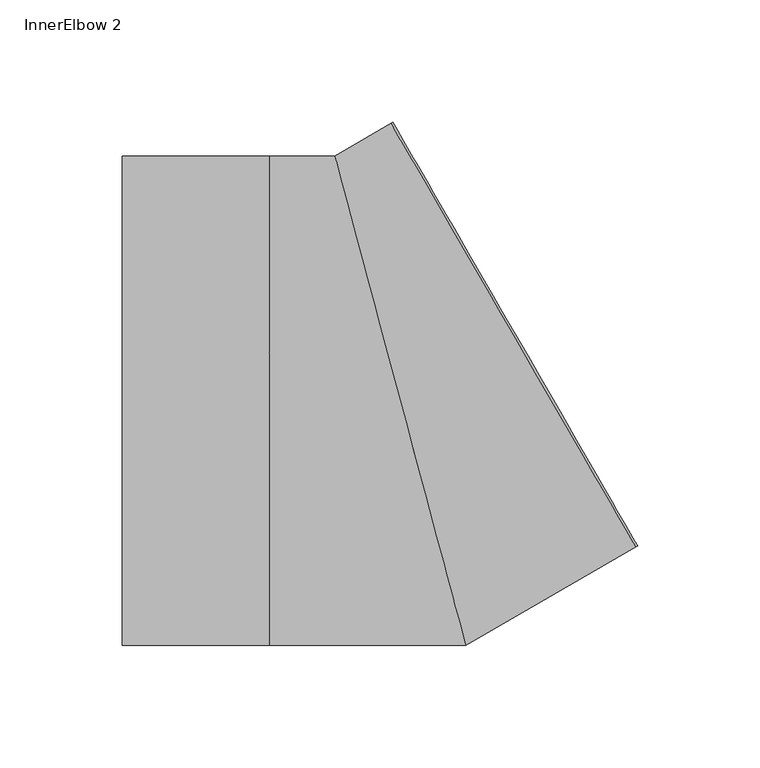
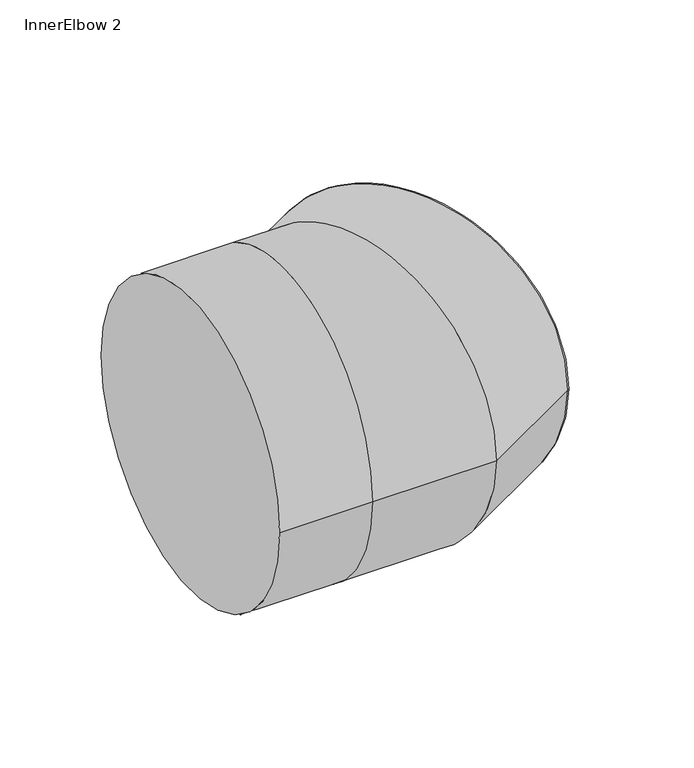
"""IFC4 building model written with IfcOpenShell, lengths in millimetres: pipe fitting geometry, CADS_Jeremias_InnerElbowSocket1 : InnerElbow 2."""

from ifc_helpers import new_model, si_unit, frame, origin, place, context, project, spatial, circle_curve, ellipse_curve, source, transform, mapped, element, save
from ifc_brep_helpers import plane_surface, cylinder_surface, advanced_brep


def innerelbow_2_19a0c524(model_context):
    return source(origin(), model_context, "Body", "AdvancedBrep", [
        advanced_brep(
        [(-113.4936491, -100.0, 0.0), (-113.4936491, 100.0, 0.0), (-53.4936491, -100.0, 0.0), (-53.4936491, 100.0, 0.0), (97.0196793, -59.4557159, 0.0), (-2.9803207, 113.7493649, 0.0), (-3.673141, 113.3493649, 0.0), (96.326859, -59.8557159, 0.0), (26.7949192, -100.0, 0.0), (-26.7949192, 100.0, 0.0)],
        [
            (0, 1, circle_curve(frame((-113.4936491, 0.0, 0.0), z_axis=(-1.0, 0.0, 0.0), x_axis=(0.0, 1.0, 0.0)), 100.0)),
            (1, 0, circle_curve(frame((-113.4936491, 0.0, 0.0), z_axis=(-1.0, 0.0, 0.0), x_axis=(0.0, 1.0, 0.0)), 100.0)),
            (0, 2),
            (2, 3, circle_curve(frame((-53.4936491, 0.0, 0.0), z_axis=(-1.0, 0.0, 0.0), x_axis=(0.0, 1.0, 0.0)), 100.0)),
            (3, 1),
            (3, 2, circle_curve(frame((-53.4936491, 0.0, 0.0), z_axis=(-1.0, 0.0, 0.0), x_axis=(0.0, 1.0, 0.0)), 100.0)),
            (4, 5, circle_curve(frame((47.0196793, 27.1468245, 0.0), z_axis=(0.8660254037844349, 0.5000000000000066, 0.0), x_axis=(-0.5000000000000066, 0.8660254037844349, 0.0)), 100.0)),
            (5, 4, circle_curve(frame((47.0196793, 27.1468245, 0.0), z_axis=(0.8660254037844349, 0.5000000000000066, 0.0), x_axis=(-0.5000000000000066, 0.8660254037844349, 0.0)), 100.0)),
            (5, 6),
            (6, 7, circle_curve(frame((46.326859, 26.7468245, 0.0), z_axis=(0.8660254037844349, 0.5000000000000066, 0.0), x_axis=(-0.5000000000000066, 0.8660254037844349, 0.0)), 100.0)),
            (7, 4),
            (7, 6, circle_curve(frame((46.326859, 26.7468245, 0.0), z_axis=(0.8660254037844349, 0.5000000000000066, 0.0), x_axis=(-0.5000000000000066, 0.8660254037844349, 0.0)), 100.0)),
            (2, 8),
            (8, 9, ellipse_curve(frame((0.0, 0.0, 0.0), z_axis=(-0.9659258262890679, -0.25881904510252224, 0.0), x_axis=(-0.25881904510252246, 0.9659258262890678, 0.0)), 103.527618, 100.0)),
            (9, 3),
            (9, 8, ellipse_curve(frame((0.0, 0.0, 0.0), z_axis=(-0.9659258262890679, -0.25881904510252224, 0.0), x_axis=(-0.25881904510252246, 0.9659258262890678, 0.0)), 103.527618, 100.0)),
            (6, 9),
            (8, 7),
        ],
        [
            plane_surface(frame((-113.4936491, 0.0, 0.0), z_axis=(-1.0, 0.0, 0.0), x_axis=(0.0, 0.0, 1.0))),
            cylinder_surface(frame((-113.4936491, 0.0, 0.0), z_axis=(-1.0, 0.0, 0.0), x_axis=(0.0, 1.0, 0.0)), 100.0),
            plane_surface(frame((47.0196793, 27.1468245, 0.0), z_axis=(0.8660254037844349, 0.5000000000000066, 0.0), x_axis=(0.0, 0.0, 1.0))),
            cylinder_surface(frame((46.326859, 26.7468245, 0.0), z_axis=(-0.8660254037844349, -0.5000000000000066, 0.0), x_axis=(-0.5000000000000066, 0.8660254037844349, 0.0)), 100.0),
            cylinder_surface(frame((-53.4936491, 0.0, 0.0), z_axis=(-1.0, 0.0, 0.0), x_axis=(0.0, 1.0, 0.0)), 100.0),
            cylinder_surface(frame((0.0, 0.0, 0.0), z_axis=(-0.866025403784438, -0.500000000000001, 0.0), x_axis=(-0.500000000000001, 0.866025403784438, 0.0)), 100.0),
        ],
        [
            (0, [[1, 2]]),
            (1, [[-1, 3, 4, 5]]),
            (1, [[-2, -5, 6, -3]]),
            (2, [[7, 8]]),
            (3, [[-8, 9, 10, 11]]),
            (3, [[-7, -11, 12, -9]]),
            (4, [[-4, 13, 14, 15]]),
            (4, [[-6, -15, 16, -13]]),
            (5, [[-10, 17, -14, 18]]),
            (5, [[-12, -18, -16, -17]]),
        ],
    ),
    ])


if __name__ == "__main__":
    model = new_model("IFC4")
    model_context = context("Model", 3, world=origin())
    ifc_project = project(units=[si_unit("LENGTHUNIT", "METRE", prefix="MILLI")], contexts=[model_context])
    site = spatial("IfcSite", under=ifc_project)
    building = spatial("IfcBuilding", under=site)
    placement = place(None, origin())
    innerelbow_2_shape = innerelbow_2_19a0c524(model_context)
    element("IfcPipeFitting", 1, ObjectType="CADS_Jeremias_InnerElbowSocket1 : InnerElbow 2", at=placement, inside=building, context=model_context, shape_type="MappedRepresentation", body=[
        mapped(innerelbow_2_shape, transform((0.0, 0.0, 0.0), x_axis=(1.0, 0.0, 0.0), y_axis=(0.0, 1.0, 0.0), z_axis=(0.0, 0.0, 1.0))),
    ])
    save(model, "model.ifc")
